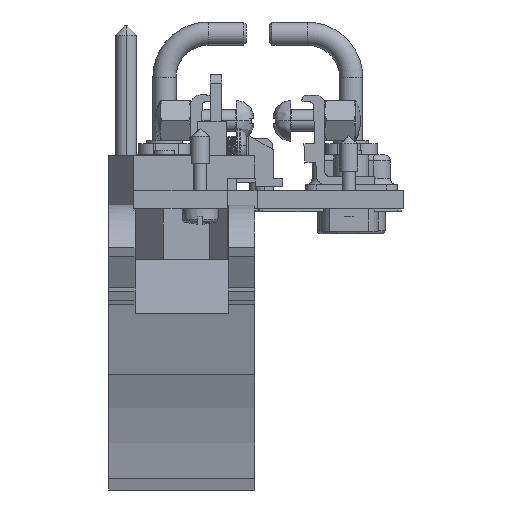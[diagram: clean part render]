
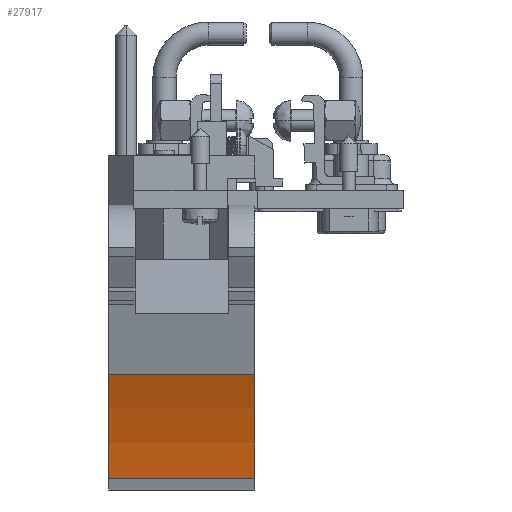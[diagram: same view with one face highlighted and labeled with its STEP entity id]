
A CAD part, front view. The second image highlights one B-rep face of the part: STEP entity #27917.
In plain terms, the highlighted cylindrical face has radius 51.46 mm (diameter 102.919 mm), a partial arc.
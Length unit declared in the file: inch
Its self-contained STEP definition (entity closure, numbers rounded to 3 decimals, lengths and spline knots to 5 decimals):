
#1629=DIRECTION('',(-1.,0.,0.));
#1630=VECTOR('',#1629,0.788);
#1631=CARTESIAN_POINT('',(0.61629,-4.34164,
-0.99503));
#1632=LINE('',#1631,#1630);
#1690=CARTESIAN_POINT('',(0.61629,-6.16587,
-1.87633));
#1691=DIRECTION('',(-1.,0.,0.));
#1692=DIRECTION('',(0.,0.9,0.435));
#1693=AXIS2_PLACEMENT_3D('',#1690,#1691,#1692);
#2004=CARTESIAN_POINT('',(-0.17171,-6.16587,
-1.87633));
#2005=DIRECTION('',(-1.,0.,0.));
#2006=DIRECTION('',(0.,0.9,0.435));
#2007=AXIS2_PLACEMENT_3D('',#2004,#2005,#2006);
#2248=DIRECTION('',(-1.,0.,0.));
#2249=VECTOR('',#2248,0.788);
#2250=CARTESIAN_POINT('',(0.61629,-4.16587,-1.553));
#2251=LINE('',#2250,#2249);
#23246=CARTESIAN_POINT('',(0.61629,-4.34164,
-0.99503));
#23247=CARTESIAN_POINT('',(0.61629,-4.16587,-1.553));
#23248=VERTEX_POINT('',#23246);
#23249=VERTEX_POINT('',#23247);
#23250=CARTESIAN_POINT('',(-0.17171,-4.34164,
-0.99503));
#23251=CARTESIAN_POINT('',(-0.17171,-4.16587,-1.553));
#23252=VERTEX_POINT('',#23250);
#23253=VERTEX_POINT('',#23251);
#27903=CARTESIAN_POINT('',(-0.17171,-6.16587,
-1.87633));
#27904=DIRECTION('',(-1.,0.,0.));
#27905=DIRECTION('',(0.,1.,0.));
#27906=AXIS2_PLACEMENT_3D('',#27903,#27904,#27905);
#27907=CYLINDRICAL_SURFACE('',#27906,2.02597);
#27909=ORIENTED_EDGE('',*,*,#27908,.T.);
#27911=ORIENTED_EDGE('',*,*,#27910,.T.);
#27913=ORIENTED_EDGE('',*,*,#27912,.F.);
#27914=ORIENTED_EDGE('',*,*,#27886,.F.);
#27915=EDGE_LOOP('',(#27909,#27911,#27913,#27914));
#27916=FACE_OUTER_BOUND('',#27915,.F.);
#27917=ADVANCED_FACE('',(#27916),#27907,.F.);
#1694=CIRCLE('',#1693,2.02597);
#2008=CIRCLE('',#2007,2.02597);
#27886=EDGE_CURVE('',#23248,#23252,#1632,.T.);
#27908=EDGE_CURVE('',#23248,#23249,#1694,.T.);
#27910=EDGE_CURVE('',#23249,#23253,#2251,.T.);
#27912=EDGE_CURVE('',#23252,#23253,#2008,.T.);
